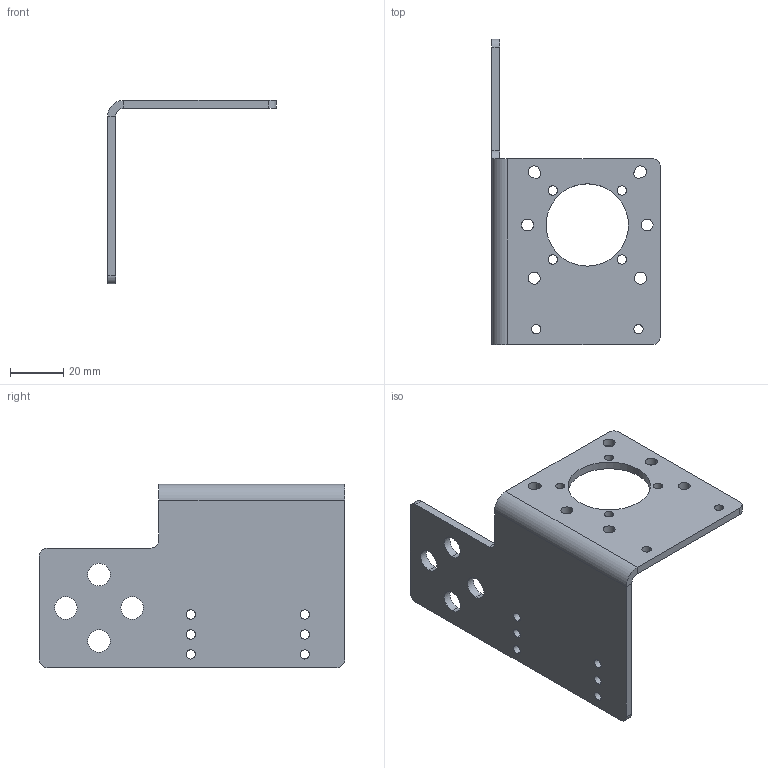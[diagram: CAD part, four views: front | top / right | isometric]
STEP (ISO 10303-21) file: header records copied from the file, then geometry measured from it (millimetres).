
FILE_DESCRIPTION (( 'STEP AP214' ), '1' );
FILE_NAME ('005875-A.STEP', '2013-03-21T16:07:29', ( ' ' ), ( '' ), 'SwSTEP 2.0', 'SolidWorks 2009', '' );
FILE_SCHEMA (( 'AUTOMOTIVE_DESIGN' ));
Length unit declared in the file: millimetre
Products named in the file (1): 005875-A
Bounding box: 63.5 x 115 x 69 mm (x, y, z)
Volume: 29254.6 mm3; surface area: 22202.6 mm2
Topology: 1 solids, 1 shells, 74 faces, 208 edges, 136 vertices
Faces by surface type: cylinder 56, plane 18
Entity records: 2555 total; most frequent: DIRECTION 470, CARTESIAN_POINT 419, ORIENTED_EDGE 416, EDGE_CURVE 208, AXIS2_PLACEMENT_3D 187, VERTEX_POINT 136, EDGE_LOOP 120, CIRCLE 112
